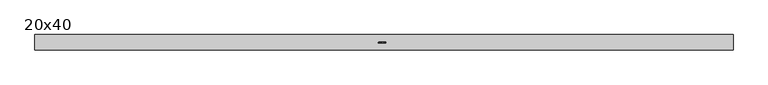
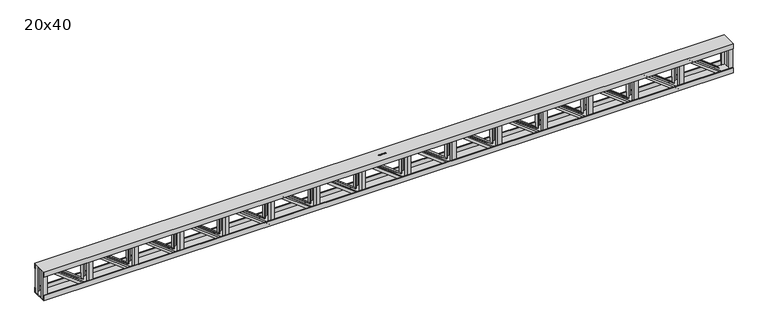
"""IFC4 building model written with IfcOpenShell, lengths in millimetres: beam geometry, Viga Treliçada - Igor Ramos.0001 : 20x40."""

from ifc_helpers import new_model, si_unit, frame, origin, place, context, project, spatial, polyline, outline, extrude, faceted_brep, source, transform, mapped, element, save


def beam_20x40_c263b07b(model_context):
    return source(origin(), model_context, "Body", "SolidModel", [
        extrude(outline(polyline([(3840.3693576, 90.0), (3890.3693576, 90.0), (3890.3693576, 85.0), (3845.3693576, 85.0), (3845.3693576, 40.0), (3840.3693576, 40.0), (3840.3693576, 90.0)])), frame((0.0, 0.0, -190.0), z_axis=(0.0, 0.0, 1.0), x_axis=(1.0, 0.0, 0.0)), (0.0, 0.0, 1.0), 380.0),
        extrude(outline(polyline([(3245.6971488, 90.0), (3295.6971488, 90.0), (3295.6971488, 85.0), (3250.6971488, 85.0), (3250.6971488, 40.0), (3245.6971488, 40.0), (3245.6971488, 90.0)])), frame((0.0, 0.0, -190.0), z_axis=(0.0, 0.0, 1.0), x_axis=(1.0, 0.0, 0.0)), (0.0, 0.0, 1.0), 380.0),
        extrude(outline(polyline([(2651.0249399, 90.0), (2701.0249399, 90.0), (2701.0249399, 85.0), (2656.0249399, 85.0), (2656.0249399, 40.0), (2651.0249399, 40.0), (2651.0249399, 90.0)])), frame((0.0, 0.0, -190.0), z_axis=(0.0, 0.0, 1.0), x_axis=(1.0, 0.0, 0.0)), (0.0, 0.0, 1.0), 380.0),
        extrude(outline(polyline([(2056.352731, 90.0), (2106.352731, 90.0), (2106.352731, 85.0), (2061.352731, 85.0), (2061.352731, 40.0), (2056.352731, 40.0), (2056.352731, 90.0)])), frame((0.0, 0.0, -190.0), z_axis=(0.0, 0.0, 1.0), x_axis=(1.0, 0.0, 0.0)), (0.0, 0.0, 1.0), 380.0),
        extrude(outline(polyline([(1461.6805222, 90.0), (1511.6805222, 90.0), (1511.6805222, 85.0), (1466.6805222, 85.0), (1466.6805222, 40.0), (1461.6805222, 40.0), (1461.6805222, 90.0)])), frame((0.0, 0.0, -190.0), z_axis=(0.0, 0.0, 1.0), x_axis=(1.0, 0.0, 0.0)), (0.0, 0.0, 1.0), 380.0),
        extrude(outline(polyline([(867.0083133, 90.0), (917.0083133, 90.0), (917.0083133, 85.0), (872.0083133, 85.0), (872.0083133, 40.0), (867.0083133, 40.0), (867.0083133, 90.0)])), frame((0.0, 0.0, -190.0), z_axis=(0.0, 0.0, 1.0), x_axis=(1.0, 0.0, 0.0)), (0.0, 0.0, 1.0), 380.0),
        extrude(outline(polyline([(272.3361044, 90.0), (322.3361044, 90.0), (322.3361044, 85.0), (277.3361044, 85.0), (277.3361044, 40.0), (272.3361044, 40.0), (272.3361044, 90.0)])), frame((0.0, 0.0, -190.0), z_axis=(0.0, 0.0, 1.0), x_axis=(1.0, 0.0, 0.0)), (0.0, 0.0, 1.0), 380.0),
        extrude(outline(polyline([(-322.3361044, 90.0), (-272.3361044, 90.0), (-272.3361044, 85.0), (-317.3361044, 85.0), (-317.3361044, 40.0), (-322.3361044, 40.0), (-322.3361044, 90.0)])), frame((0.0, 0.0, -190.0), z_axis=(0.0, 0.0, 1.0), x_axis=(1.0, 0.0, 0.0)), (0.0, 0.0, 1.0), 380.0),
        extrude(outline(polyline([(-917.0083133, 90.0), (-867.0083133, 90.0), (-867.0083133, 85.0), (-912.0083133, 85.0), (-912.0083133, 40.0), (-917.0083133, 40.0), (-917.0083133, 90.0)])), frame((0.0, 0.0, -190.0), z_axis=(0.0, 0.0, 1.0), x_axis=(1.0, 0.0, 0.0)), (0.0, 0.0, 1.0), 380.0),
        extrude(outline(polyline([(-1511.6805222, 90.0), (-1461.6805222, 90.0), (-1461.6805222, 85.0), (-1506.6805222, 85.0), (-1506.6805222, 40.0), (-1511.6805222, 40.0), (-1511.6805222, 90.0)])), frame((0.0, 0.0, -190.0), z_axis=(0.0, 0.0, 1.0), x_axis=(1.0, 0.0, 0.0)), (0.0, 0.0, 1.0), 380.0),
        extrude(outline(polyline([(3840.3693576, -90.0), (3840.3693576, -40.0), (3845.3693576, -40.0), (3845.3693576, -85.0), (3890.3693576, -85.0), (3890.3693576, -90.0), (3840.3693576, -90.0)])), frame((0.0, 0.0, -190.0), z_axis=(0.0, 0.0, 1.0), x_axis=(1.0, 0.0, 0.0)), (0.0, 0.0, 1.0), 380.0),
        extrude(outline(polyline([(3245.6971488, -90.0), (3245.6971488, -40.0), (3250.6971488, -40.0), (3250.6971488, -85.0), (3295.6971488, -85.0), (3295.6971488, -90.0), (3245.6971488, -90.0)])), frame((0.0, 0.0, -190.0), z_axis=(0.0, 0.0, 1.0), x_axis=(1.0, 0.0, 0.0)), (0.0, 0.0, 1.0), 380.0),
        extrude(outline(polyline([(2651.0249399, -90.0), (2651.0249399, -40.0), (2656.0249399, -40.0), (2656.0249399, -85.0), (2701.0249399, -85.0), (2701.0249399, -90.0), (2651.0249399, -90.0)])), frame((0.0, 0.0, -190.0), z_axis=(0.0, 0.0, 1.0), x_axis=(1.0, 0.0, 0.0)), (0.0, 0.0, 1.0), 380.0),
        extrude(outline(polyline([(2056.352731, -90.0), (2056.352731, -40.0), (2061.352731, -40.0), (2061.352731, -85.0), (2106.352731, -85.0), (2106.352731, -90.0), (2056.352731, -90.0)])), frame((0.0, 0.0, -190.0), z_axis=(0.0, 0.0, 1.0), x_axis=(1.0, 0.0, 0.0)), (0.0, 0.0, 1.0), 380.0),
        extrude(outline(polyline([(1461.6805222, -90.0), (1461.6805222, -40.0), (1466.6805222, -40.0), (1466.6805222, -85.0), (1511.6805222, -85.0), (1511.6805222, -90.0), (1461.6805222, -90.0)])), frame((0.0, 0.0, -190.0), z_axis=(0.0, 0.0, 1.0), x_axis=(1.0, 0.0, 0.0)), (0.0, 0.0, 1.0), 380.0),
        extrude(outline(polyline([(867.0083133, -90.0), (867.0083133, -40.0), (872.0083133, -40.0), (872.0083133, -85.0), (917.0083133, -85.0), (917.0083133, -90.0), (867.0083133, -90.0)])), frame((0.0, 0.0, -190.0), z_axis=(0.0, 0.0, 1.0), x_axis=(1.0, 0.0, 0.0)), (0.0, 0.0, 1.0), 380.0),
        extrude(outline(polyline([(272.3361044, -90.0), (272.3361044, -40.0), (277.3361044, -40.0), (277.3361044, -85.0), (322.3361044, -85.0), (322.3361044, -90.0), (272.3361044, -90.0)])), frame((0.0, 0.0, -190.0), z_axis=(0.0, 0.0, 1.0), x_axis=(1.0, 0.0, 0.0)), (0.0, 0.0, 1.0), 380.0),
        extrude(outline(polyline([(-322.3361044, -90.0), (-322.3361044, -40.0), (-317.3361044, -40.0), (-317.3361044, -85.0), (-272.3361044, -85.0), (-272.3361044, -90.0), (-322.3361044, -90.0)])), frame((0.0, 0.0, -190.0), z_axis=(0.0, 0.0, 1.0), x_axis=(1.0, 0.0, 0.0)), (0.0, 0.0, 1.0), 380.0),
        extrude(outline(polyline([(-917.0083133, -90.0), (-917.0083133, -40.0), (-912.0083133, -40.0), (-912.0083133, -85.0), (-867.0083133, -85.0), (-867.0083133, -90.0), (-917.0083133, -90.0)])), frame((0.0, 0.0, -190.0), z_axis=(0.0, 0.0, 1.0), x_axis=(1.0, 0.0, 0.0)), (0.0, 0.0, 1.0), 380.0),
        extrude(outline(polyline([(-1511.6805222, -90.0), (-1511.6805222, -40.0), (-1506.6805222, -40.0), (-1506.6805222, -85.0), (-1461.6805222, -85.0), (-1461.6805222, -90.0), (-1511.6805222, -90.0)])), frame((0.0, 0.0, -190.0), z_axis=(0.0, 0.0, 1.0), x_axis=(1.0, 0.0, 0.0)), (0.0, 0.0, 1.0), 380.0),
        faceted_brep([(4385.0415665, -90.0, -190.0), (4385.0415665, -85.0, -190.0), (4430.0415665, -85.0, -190.0), (4430.0415665, -40.0, -190.0), (4435.0415665, -40.0, -190.0), (4435.0415665, -90.0, -190.0), (3890.3693576, -90.0, 190.0), (3940.3693576, -90.0, 190.0), (3940.3693576, -40.0, 190.0), (3935.3693576, -40.0, 190.0), (3935.3693576, -85.0, 190.0), (3890.3693576, -85.0, 190.0)], [[[0, 1, 2, 3, 4, 5]], [[6, 7, 8, 9, 10, 11]], [[6, 11, 1, 0]], [[11, 10, 2, 1]], [[10, 9, 3, 2]], [[9, 8, 4, 3]], [[8, 7, 5, 4]], [[7, 6, 0, 5]]]),
        faceted_brep([(3790.3693576, -90.0, -190.0), (3790.3693576, -85.0, -190.0), (3835.3693576, -85.0, -190.0), (3835.3693576, -40.0, -190.0), (3840.3693576, -40.0, -190.0), (3840.3693576, -90.0, -190.0), (3295.6971488, -90.0, 190.0), (3345.6971488, -90.0, 190.0), (3345.6971488, -40.0, 190.0), (3340.6971488, -40.0, 190.0), (3340.6971488, -85.0, 190.0), (3295.6971488, -85.0, 190.0)], [[[0, 1, 2, 3, 4, 5]], [[6, 7, 8, 9, 10, 11]], [[6, 11, 1, 0]], [[11, 10, 2, 1]], [[10, 9, 3, 2]], [[9, 8, 4, 3]], [[8, 7, 5, 4]], [[7, 6, 0, 5]]]),
        faceted_brep([(3195.6971488, -90.0, -190.0), (3195.6971488, -85.0, -190.0), (3240.6971488, -85.0, -190.0), (3240.6971488, -40.0, -190.0), (3245.6971488, -40.0, -190.0), (3245.6971488, -90.0, -190.0), (2701.0249399, -90.0, 190.0), (2751.0249399, -90.0, 190.0), (2751.0249399, -40.0, 190.0), (2746.0249399, -40.0, 190.0), (2746.0249399, -85.0, 190.0), (2701.0249399, -85.0, 190.0)], [[[0, 1, 2, 3, 4, 5]], [[6, 7, 8, 9, 10, 11]], [[6, 11, 1, 0]], [[11, 10, 2, 1]], [[10, 9, 3, 2]], [[9, 8, 4, 3]], [[8, 7, 5, 4]], [[7, 6, 0, 5]]]),
        faceted_brep([(2601.0249399, -90.0, -190.0), (2601.0249399, -85.0, -190.0), (2646.0249399, -85.0, -190.0), (2646.0249399, -40.0, -190.0), (2651.0249399, -40.0, -190.0), (2651.0249399, -90.0, -190.0), (2106.352731, -90.0, 190.0), (2156.352731, -90.0, 190.0), (2156.352731, -40.0, 190.0), (2151.352731, -40.0, 190.0), (2151.352731, -85.0, 190.0), (2106.352731, -85.0, 190.0)], [[[0, 1, 2, 3, 4, 5]], [[6, 7, 8, 9, 10, 11]], [[6, 11, 1, 0]], [[11, 10, 2, 1]], [[10, 9, 3, 2]], [[9, 8, 4, 3]], [[8, 7, 5, 4]], [[7, 6, 0, 5]]]),
        faceted_brep([(2006.352731, -90.0, -190.0), (2006.352731, -85.0, -190.0), (2051.352731, -85.0, -190.0), (2051.352731, -40.0, -190.0), (2056.352731, -40.0, -190.0), (2056.352731, -90.0, -190.0), (1511.6805222, -90.0, 190.0), (1561.6805222, -90.0, 190.0), (1561.6805222, -40.0, 190.0), (1556.6805222, -40.0, 190.0), (1556.6805222, -85.0, 190.0), (1511.6805222, -85.0, 190.0)], [[[0, 1, 2, 3, 4, 5]], [[6, 7, 8, 9, 10, 11]], [[6, 11, 1, 0]], [[11, 10, 2, 1]], [[10, 9, 3, 2]], [[9, 8, 4, 3]], [[8, 7, 5, 4]], [[7, 6, 0, 5]]]),
        faceted_brep([(1411.6805222, -90.0, -190.0), (1411.6805222, -85.0, -190.0), (1456.6805222, -85.0, -190.0), (1456.6805222, -40.0, -190.0), (1461.6805222, -40.0, -190.0), (1461.6805222, -90.0, -190.0), (917.0083133, -90.0, 190.0), (967.0083133, -90.0, 190.0), (967.0083133, -40.0, 190.0), (962.0083133, -40.0, 190.0), (962.0083133, -85.0, 190.0), (917.0083133, -85.0, 190.0)], [[[0, 1, 2, 3, 4, 5]], [[6, 7, 8, 9, 10, 11]], [[6, 11, 1, 0]], [[11, 10, 2, 1]], [[10, 9, 3, 2]], [[9, 8, 4, 3]], [[8, 7, 5, 4]], [[7, 6, 0, 5]]]),
        faceted_brep([(817.0083133, -90.0, -190.0), (817.0083133, -85.0, -190.0), (862.0083133, -85.0, -190.0), (862.0083133, -40.0, -190.0), (867.0083133, -40.0, -190.0), (867.0083133, -90.0, -190.0), (322.3361044, -90.0, 190.0), (372.3361044, -90.0, 190.0), (372.3361044, -40.0, 190.0), (367.3361044, -40.0, 190.0), (367.3361044, -85.0, 190.0), (322.3361044, -85.0, 190.0)], [[[0, 1, 2, 3, 4, 5]], [[6, 7, 8, 9, 10, 11]], [[6, 11, 1, 0]], [[11, 10, 2, 1]], [[10, 9, 3, 2]], [[9, 8, 4, 3]], [[8, 7, 5, 4]], [[7, 6, 0, 5]]]),
        faceted_brep([(222.3361044, -90.0, -190.0), (222.3361044, -85.0, -190.0), (267.3361044, -85.0, -190.0), (267.3361044, -40.0, -190.0), (272.3361044, -40.0, -190.0), (272.3361044, -90.0, -190.0), (-272.3361044, -90.0, 190.0), (-222.3361044, -90.0, 190.0), (-222.3361044, -40.0, 190.0), (-227.3361044, -40.0, 190.0), (-227.3361044, -85.0, 190.0), (-272.3361044, -85.0, 190.0)], [[[0, 1, 2, 3, 4, 5]], [[6, 7, 8, 9, 10, 11]], [[6, 11, 1, 0]], [[11, 10, 2, 1]], [[10, 9, 3, 2]], [[9, 8, 4, 3]], [[8, 7, 5, 4]], [[7, 6, 0, 5]]]),
        faceted_brep([(-372.3361044, -90.0, -190.0), (-372.3361044, -85.0, -190.0), (-327.3361044, -85.0, -190.0), (-327.3361044, -40.0, -190.0), (-322.3361044, -40.0, -190.0), (-322.3361044, -90.0, -190.0), (-867.0083133, -90.0, 190.0), (-817.0083133, -90.0, 190.0), (-817.0083133, -40.0, 190.0), (-822.0083133, -40.0, 190.0), (-822.0083133, -85.0, 190.0), (-867.0083133, -85.0, 190.0)], [[[0, 1, 2, 3, 4, 5]], [[6, 7, 8, 9, 10, 11]], [[6, 11, 1, 0]], [[11, 10, 2, 1]], [[10, 9, 3, 2]], [[9, 8, 4, 3]], [[8, 7, 5, 4]], [[7, 6, 0, 5]]]),
        faceted_brep([(-967.0083133, -90.0, -190.0), (-967.0083133, -85.0, -190.0), (-922.0083133, -85.0, -190.0), (-922.0083133, -40.0, -190.0), (-917.0083133, -40.0, -190.0), (-917.0083133, -90.0, -190.0), (-1461.6805222, -90.0, 190.0), (-1411.6805222, -90.0, 190.0), (-1411.6805222, -40.0, 190.0), (-1416.6805222, -40.0, 190.0), (-1416.6805222, -85.0, 190.0), (-1461.6805222, -85.0, 190.0)], [[[0, 1, 2, 3, 4, 5]], [[6, 7, 8, 9, 10, 11]], [[6, 11, 1, 0]], [[11, 10, 2, 1]], [[10, 9, 3, 2]], [[9, 8, 4, 3]], [[8, 7, 5, 4]], [[7, 6, 0, 5]]]),
        faceted_brep([(4385.0415665, 90.0, -190.0), (4435.0415665, 90.0, -190.0), (4435.0415665, 40.0, -190.0), (4430.0415665, 40.0, -190.0), (4430.0415665, 85.0, -190.0), (4385.0415665, 85.0, -190.0), (3890.3693576, 90.0, 190.0), (3890.3693576, 85.0, 190.0), (3935.3693576, 85.0, 190.0), (3935.3693576, 40.0, 190.0), (3940.3693576, 40.0, 190.0), (3940.3693576, 90.0, 190.0)], [[[0, 1, 2, 3, 4, 5]], [[6, 7, 8, 9, 10, 11]], [[6, 0, 5, 7]], [[7, 5, 4, 8]], [[8, 4, 3, 9]], [[9, 3, 2, 10]], [[10, 2, 1, 11]], [[11, 1, 0, 6]]]),
        faceted_brep([(3790.3693576, 90.0, -190.0), (3840.3693576, 90.0, -190.0), (3840.3693576, 40.0, -190.0), (3835.3693576, 40.0, -190.0), (3835.3693576, 85.0, -190.0), (3790.3693576, 85.0, -190.0), (3295.6971488, 90.0, 190.0), (3295.6971488, 85.0, 190.0), (3340.6971488, 85.0, 190.0), (3340.6971488, 40.0, 190.0), (3345.6971488, 40.0, 190.0), (3345.6971488, 90.0, 190.0)], [[[0, 1, 2, 3, 4, 5]], [[6, 7, 8, 9, 10, 11]], [[6, 0, 5, 7]], [[7, 5, 4, 8]], [[8, 4, 3, 9]], [[9, 3, 2, 10]], [[10, 2, 1, 11]], [[11, 1, 0, 6]]]),
        faceted_brep([(3195.6971488, 90.0, -190.0), (3245.6971488, 90.0, -190.0), (3245.6971488, 40.0, -190.0), (3240.6971488, 40.0, -190.0), (3240.6971488, 85.0, -190.0), (3195.6971488, 85.0, -190.0), (2701.0249399, 90.0, 190.0), (2701.0249399, 85.0, 190.0), (2746.0249399, 85.0, 190.0), (2746.0249399, 40.0, 190.0), (2751.0249399, 40.0, 190.0), (2751.0249399, 90.0, 190.0)], [[[0, 1, 2, 3, 4, 5]], [[6, 7, 8, 9, 10, 11]], [[6, 0, 5, 7]], [[7, 5, 4, 8]], [[8, 4, 3, 9]], [[9, 3, 2, 10]], [[10, 2, 1, 11]], [[11, 1, 0, 6]]]),
        faceted_brep([(2601.0249399, 90.0, -190.0), (2651.0249399, 90.0, -190.0), (2651.0249399, 40.0, -190.0), (2646.0249399, 40.0, -190.0), (2646.0249399, 85.0, -190.0), (2601.0249399, 85.0, -190.0), (2106.352731, 90.0, 190.0), (2106.352731, 85.0, 190.0), (2151.352731, 85.0, 190.0), (2151.352731, 40.0, 190.0), (2156.352731, 40.0, 190.0), (2156.352731, 90.0, 190.0)], [[[0, 1, 2, 3, 4, 5]], [[6, 7, 8, 9, 10, 11]], [[6, 0, 5, 7]], [[7, 5, 4, 8]], [[8, 4, 3, 9]], [[9, 3, 2, 10]], [[10, 2, 1, 11]], [[11, 1, 0, 6]]]),
        faceted_brep([(2006.352731, 90.0, -190.0), (2056.352731, 90.0, -190.0), (2056.352731, 40.0, -190.0), (2051.352731, 40.0, -190.0), (2051.352731, 85.0, -190.0), (2006.352731, 85.0, -190.0), (1511.6805222, 90.0, 190.0), (1511.6805222, 85.0, 190.0), (1556.6805222, 85.0, 190.0), (1556.6805222, 40.0, 190.0), (1561.6805222, 40.0, 190.0), (1561.6805222, 90.0, 190.0)], [[[0, 1, 2, 3, 4, 5]], [[6, 7, 8, 9, 10, 11]], [[6, 0, 5, 7]], [[7, 5, 4, 8]], [[8, 4, 3, 9]], [[9, 3, 2, 10]], [[10, 2, 1, 11]], [[11, 1, 0, 6]]]),
        faceted_brep([(1411.6805222, 90.0, -190.0), (1461.6805222, 90.0, -190.0), (1461.6805222, 40.0, -190.0), (1456.6805222, 40.0, -190.0), (1456.6805222, 85.0, -190.0), (1411.6805222, 85.0, -190.0), (917.0083133, 90.0, 190.0), (917.0083133, 85.0, 190.0), (962.0083133, 85.0, 190.0), (962.0083133, 40.0, 190.0), (967.0083133, 40.0, 190.0), (967.0083133, 90.0, 190.0)], [[[0, 1, 2, 3, 4, 5]], [[6, 7, 8, 9, 10, 11]], [[6, 0, 5, 7]], [[7, 5, 4, 8]], [[8, 4, 3, 9]], [[9, 3, 2, 10]], [[10, 2, 1, 11]], [[11, 1, 0, 6]]]),
        faceted_brep([(817.0083133, 90.0, -190.0), (867.0083133, 90.0, -190.0), (867.0083133, 40.0, -190.0), (862.0083133, 40.0, -190.0), (862.0083133, 85.0, -190.0), (817.0083133, 85.0, -190.0), (322.3361044, 90.0, 190.0), (322.3361044, 85.0, 190.0), (367.3361044, 85.0, 190.0), (367.3361044, 40.0, 190.0), (372.3361044, 40.0, 190.0), (372.3361044, 90.0, 190.0)], [[[0, 1, 2, 3, 4, 5]], [[6, 7, 8, 9, 10, 11]], [[6, 0, 5, 7]], [[7, 5, 4, 8]], [[8, 4, 3, 9]], [[9, 3, 2, 10]], [[10, 2, 1, 11]], [[11, 1, 0, 6]]]),
        faceted_brep([(222.3361044, 90.0, -190.0), (272.3361044, 90.0, -190.0), (272.3361044, 40.0, -190.0), (267.3361044, 40.0, -190.0), (267.3361044, 85.0, -190.0), (222.3361044, 85.0, -190.0), (-272.3361044, 90.0, 190.0), (-272.3361044, 85.0, 190.0), (-227.3361044, 85.0, 190.0), (-227.3361044, 40.0, 190.0), (-222.3361044, 40.0, 190.0), (-222.3361044, 90.0, 190.0)], [[[0, 1, 2, 3, 4, 5]], [[6, 7, 8, 9, 10, 11]], [[6, 0, 5, 7]], [[7, 5, 4, 8]], [[8, 4, 3, 9]], [[9, 3, 2, 10]], [[10, 2, 1, 11]], [[11, 1, 0, 6]]]),
        faceted_brep([(-372.3361044, 90.0, -190.0), (-322.3361044, 90.0, -190.0), (-322.3361044, 40.0, -190.0), (-327.3361044, 40.0, -190.0), (-327.3361044, 85.0, -190.0), (-372.3361044, 85.0, -190.0), (-867.0083133, 90.0, 190.0), (-867.0083133, 85.0, 190.0), (-822.0083133, 85.0, 190.0), (-822.0083133, 40.0, 190.0), (-817.0083133, 40.0, 190.0), (-817.0083133, 90.0, 190.0)], [[[0, 1, 2, 3, 4, 5]], [[6, 7, 8, 9, 10, 11]], [[6, 0, 5, 7]], [[7, 5, 4, 8]], [[8, 4, 3, 9]], [[9, 3, 2, 10]], [[10, 2, 1, 11]], [[11, 1, 0, 6]]]),
        faceted_brep([(-967.0083133, 90.0, -190.0), (-917.0083133, 90.0, -190.0), (-917.0083133, 40.0, -190.0), (-922.0083133, 40.0, -190.0), (-922.0083133, 85.0, -190.0), (-967.0083133, 85.0, -190.0), (-1461.6805222, 90.0, 190.0), (-1461.6805222, 85.0, 190.0), (-1416.6805222, 85.0, 190.0), (-1416.6805222, 40.0, 190.0), (-1411.6805222, 40.0, 190.0), (-1411.6805222, 90.0, 190.0)], [[[0, 1, 2, 3, 4, 5]], [[6, 7, 8, 9, 10, 11]], [[6, 0, 5, 7]], [[7, 5, 4, 8]], [[8, 4, 3, 9]], [[9, 3, 2, 10]], [[10, 2, 1, 11]], [[11, 1, 0, 6]]]),
        extrude(outline(polyline([(-2106.352731, 90.0), (-2056.352731, 90.0), (-2056.352731, 85.0), (-2101.352731, 85.0), (-2101.352731, 40.0), (-2106.352731, 40.0), (-2106.352731, 90.0)])), frame((0.0, 0.0, -190.0), z_axis=(0.0, 0.0, 1.0), x_axis=(1.0, 0.0, 0.0)), (0.0, 0.0, 1.0), 380.0),
        extrude(outline(polyline([(-2701.0249399, 90.0), (-2651.0249399, 90.0), (-2651.0249399, 85.0), (-2696.0249399, 85.0), (-2696.0249399, 40.0), (-2701.0249399, 40.0), (-2701.0249399, 90.0)])), frame((0.0, 0.0, -190.0), z_axis=(0.0, 0.0, 1.0), x_axis=(1.0, 0.0, 0.0)), (0.0, 0.0, 1.0), 380.0),
        extrude(outline(polyline([(-2106.352731, -90.0), (-2106.352731, -40.0), (-2101.352731, -40.0), (-2101.352731, -85.0), (-2056.352731, -85.0), (-2056.352731, -90.0), (-2106.352731, -90.0)])), frame((0.0, 0.0, -190.0), z_axis=(0.0, 0.0, 1.0), x_axis=(1.0, 0.0, 0.0)), (0.0, 0.0, 1.0), 380.0),
        extrude(outline(polyline([(-2701.0249399, -90.0), (-2701.0249399, -40.0), (-2696.0249399, -40.0), (-2696.0249399, -85.0), (-2651.0249399, -85.0), (-2651.0249399, -90.0), (-2701.0249399, -90.0)])), frame((0.0, 0.0, -190.0), z_axis=(0.0, 0.0, 1.0), x_axis=(1.0, 0.0, 0.0)), (0.0, 0.0, 1.0), 380.0),
        faceted_brep([(-1561.6805222, 90.0, -190.0), (-1511.6805222, 90.0, -190.0), (-1511.6805222, 40.0, -190.0), (-1516.6805222, 40.0, -190.0), (-1516.6805222, 85.0, -190.0), (-1561.6805222, 85.0, -190.0), (-2056.352731, 90.0, 190.0), (-2056.352731, 85.0, 190.0), (-2011.352731, 85.0, 190.0), (-2011.352731, 40.0, 190.0), (-2006.352731, 40.0, 190.0), (-2006.352731, 90.0, 190.0)], [[[0, 1, 2, 3, 4, 5]], [[6, 7, 8, 9, 10, 11]], [[6, 0, 5, 7]], [[7, 5, 4, 8]], [[8, 4, 3, 9]], [[9, 3, 2, 10]], [[10, 2, 1, 11]], [[11, 1, 0, 6]]]),
        faceted_brep([(-2156.352731, 90.0, -190.0), (-2106.352731, 90.0, -190.0), (-2106.352731, 40.0, -190.0), (-2111.352731, 40.0, -190.0), (-2111.352731, 85.0, -190.0), (-2156.352731, 85.0, -190.0), (-2651.0249399, 90.0, 190.0), (-2651.0249399, 85.0, 190.0), (-2606.0249399, 85.0, 190.0), (-2606.0249399, 40.0, 190.0), (-2601.0249399, 40.0, 190.0), (-2601.0249399, 90.0, 190.0)], [[[0, 1, 2, 3, 4, 5]], [[6, 7, 8, 9, 10, 11]], [[6, 0, 5, 7]], [[7, 5, 4, 8]], [[8, 4, 3, 9]], [[9, 3, 2, 10]], [[10, 2, 1, 11]], [[11, 1, 0, 6]]]),
        faceted_brep([(-2751.0249399, 90.0, -190.0), (-2701.0249399, 90.0, -190.0), (-2701.0249399, 40.0, -190.0), (-2706.0249399, 40.0, -190.0), (-2706.0249399, 85.0, -190.0), (-2751.0249399, 85.0, -190.0), (-3245.6971488, 90.0, 190.0), (-3245.6971488, 85.0, 190.0), (-3200.6971488, 85.0, 190.0), (-3200.6971488, 40.0, 190.0), (-3195.6971488, 40.0, 190.0), (-3195.6971488, 90.0, 190.0)], [[[0, 1, 2, 3, 4, 5]], [[6, 7, 8, 9, 10, 11]], [[6, 0, 5, 7]], [[7, 5, 4, 8]], [[8, 4, 3, 9]], [[9, 3, 2, 10]], [[10, 2, 1, 11]], [[11, 1, 0, 6]]]),
        faceted_brep([(-1561.6805222, -90.0, -190.0), (-1561.6805222, -85.0, -190.0), (-1516.6805222, -85.0, -190.0), (-1516.6805222, -40.0, -190.0), (-1511.6805222, -40.0, -190.0), (-1511.6805222, -90.0, -190.0), (-2056.352731, -90.0, 190.0), (-2006.352731, -90.0, 190.0), (-2006.352731, -40.0, 190.0), (-2011.352731, -40.0, 190.0), (-2011.352731, -85.0, 190.0), (-2056.352731, -85.0, 190.0)], [[[0, 1, 2, 3, 4, 5]], [[6, 7, 8, 9, 10, 11]], [[6, 11, 1, 0]], [[11, 10, 2, 1]], [[10, 9, 3, 2]], [[9, 8, 4, 3]], [[8, 7, 5, 4]], [[7, 6, 0, 5]]]),
        faceted_brep([(-2156.352731, -90.0, -190.0), (-2156.352731, -85.0, -190.0), (-2111.352731, -85.0, -190.0), (-2111.352731, -40.0, -190.0), (-2106.352731, -40.0, -190.0), (-2106.352731, -90.0, -190.0), (-2651.0249399, -90.0, 190.0), (-2601.0249399, -90.0, 190.0), (-2601.0249399, -40.0, 190.0), (-2606.0249399, -40.0, 190.0), (-2606.0249399, -85.0, 190.0), (-2651.0249399, -85.0, 190.0)], [[[0, 1, 2, 3, 4, 5]], [[6, 7, 8, 9, 10, 11]], [[6, 11, 1, 0]], [[11, 10, 2, 1]], [[10, 9, 3, 2]], [[9, 8, 4, 3]], [[8, 7, 5, 4]], [[7, 6, 0, 5]]]),
        faceted_brep([(-2751.0249399, -90.0, -190.0), (-2751.0249399, -85.0, -190.0), (-2706.0249399, -85.0, -190.0), (-2706.0249399, -40.0, -190.0), (-2701.0249399, -40.0, -190.0), (-2701.0249399, -90.0, -190.0), (-3245.6971488, -90.0, 190.0), (-3195.6971488, -90.0, 190.0), (-3195.6971488, -40.0, 190.0), (-3200.6971488, -40.0, 190.0), (-3200.6971488, -85.0, 190.0), (-3245.6971488, -85.0, 190.0)], [[[0, 1, 2, 3, 4, 5]], [[6, 7, 8, 9, 10, 11]], [[6, 11, 1, 0]], [[11, 10, 2, 1]], [[10, 9, 3, 2]], [[9, 8, 4, 3]], [[8, 7, 5, 4]], [[7, 6, 0, 5]]]),
        extrude(outline(polyline([(-3295.6971488, 90.0), (-3245.6971488, 90.0), (-3245.6971488, 85.0), (-3290.6971488, 85.0), (-3290.6971488, 40.0), (-3295.6971488, 40.0), (-3295.6971488, 90.0)])), frame((0.0, 0.0, -190.0), z_axis=(0.0, 0.0, 1.0), x_axis=(1.0, 0.0, 0.0)), (0.0, 0.0, 1.0), 380.0),
        extrude(outline(polyline([(-3295.6971488, -90.0), (-3295.6971488, -40.0), (-3290.6971488, -40.0), (-3290.6971488, -85.0), (-3245.6971488, -85.0), (-3245.6971488, -90.0), (-3295.6971488, -90.0)])), frame((0.0, 0.0, -190.0), z_axis=(0.0, 0.0, 1.0), x_axis=(1.0, 0.0, 0.0)), (0.0, 0.0, 1.0), 380.0),
        extrude(outline(polyline([(4531.8873954, 90.0), (4531.8873954, 40.0), (4526.8873954, 40.0), (4526.8873954, 85.0), (4481.8873954, 85.0), (4481.8873954, 90.0), (4531.8873954, 90.0)])), frame((0.0, 0.0, -190.0), z_axis=(0.0, 0.0, 1.0), x_axis=(1.0, 0.0, 0.0)), (0.0, 0.0, 1.0), 380.0),
        extrude(outline(polyline([(4531.8873954, -90.0), (4481.8873954, -90.0), (4481.8873954, -85.0), (4526.8873954, -85.0), (4526.8873954, -40.0), (4531.8873954, -40.0), (4531.8873954, -90.0)])), frame((0.0, 0.0, -190.0), z_axis=(0.0, 0.0, 1.0), x_axis=(1.0, 0.0, 0.0)), (0.0, 0.0, 1.0), 380.0),
        extrude(outline(polyline([(-3890.3693576, 90.0), (-3840.3693576, 90.0), (-3840.3693576, 85.0), (-3885.3693576, 85.0), (-3885.3693576, 40.0), (-3890.3693576, 40.0), (-3890.3693576, 90.0)])), frame((0.0, 0.0, -190.0), z_axis=(0.0, 0.0, 1.0), x_axis=(1.0, 0.0, 0.0)), (0.0, 0.0, 1.0), 380.0),
        extrude(outline(polyline([(-3890.3693576, -90.0), (-3890.3693576, -40.0), (-3885.3693576, -40.0), (-3885.3693576, -85.0), (-3840.3693576, -85.0), (-3840.3693576, -90.0), (-3890.3693576, -90.0)])), frame((0.0, 0.0, -190.0), z_axis=(0.0, 0.0, 1.0), x_axis=(1.0, 0.0, 0.0)), (0.0, 0.0, 1.0), 380.0),
        faceted_brep([(-3345.6971488, -90.0, -190.0), (-3345.6971488, -85.0, -190.0), (-3300.6971488, -85.0, -190.0), (-3300.6971488, -40.0, -190.0), (-3295.6971488, -40.0, -190.0), (-3295.6971488, -90.0, -190.0), (-3840.3693576, -90.0, 190.0), (-3790.3693576, -90.0, 190.0), (-3790.3693576, -40.0, 190.0), (-3795.3693576, -40.0, 190.0), (-3795.3693576, -85.0, 190.0), (-3840.3693576, -85.0, 190.0)], [[[0, 1, 2, 3, 4, 5]], [[6, 7, 8, 9, 10, 11]], [[6, 11, 1, 0]], [[11, 10, 2, 1]], [[10, 9, 3, 2]], [[9, 8, 4, 3]], [[8, 7, 5, 4]], [[7, 6, 0, 5]]]),
        faceted_brep([(-3345.6971488, 90.0, -190.0), (-3295.6971488, 90.0, -190.0), (-3295.6971488, 40.0, -190.0), (-3300.6971488, 40.0, -190.0), (-3300.6971488, 85.0, -190.0), (-3345.6971488, 85.0, -190.0), (-3840.3693576, 90.0, 190.0), (-3840.3693576, 85.0, 190.0), (-3795.3693576, 85.0, 190.0), (-3795.3693576, 40.0, 190.0), (-3790.3693576, 40.0, 190.0), (-3790.3693576, 90.0, 190.0)], [[[0, 1, 2, 3, 4, 5]], [[6, 7, 8, 9, 10, 11]], [[6, 0, 5, 7]], [[7, 5, 4, 8]], [[8, 4, 3, 9]], [[9, 3, 2, 10]], [[10, 2, 1, 11]], [[11, 1, 0, 6]]]),
        faceted_brep([(-3940.3693576, 90.0, -190.0), (-3890.3693576, 90.0, -190.0), (-3890.3693576, 40.0, -190.0), (-3895.3693576, 40.0, -190.0), (-3895.3693576, 85.0, -190.0), (-3940.3693576, 85.0, -190.0), (-4435.0415665, 90.0, 190.0), (-4435.0415665, 85.0, 190.0), (-4390.0415665, 85.0, 190.0), (-4390.0415665, 40.0, 190.0), (-4385.0415665, 40.0, 190.0), (-4385.0415665, 90.0, 190.0)], [[[0, 1, 2, 3, 4, 5]], [[6, 7, 8, 9, 10, 11]], [[6, 0, 5, 7]], [[7, 5, 4, 8]], [[8, 4, 3, 9]], [[9, 3, 2, 10]], [[10, 2, 1, 11]], [[11, 1, 0, 6]]]),
        extrude(outline(polyline([(-4485.0415665, 90.0), (-4435.0415665, 90.0), (-4435.0415665, 85.0), (-4480.0415665, 85.0), (-4480.0415665, 40.0), (-4485.0415665, 40.0), (-4485.0415665, 90.0)])), frame((0.0, 0.0, -190.0), z_axis=(0.0, 0.0, 1.0), x_axis=(1.0, 0.0, 0.0)), (0.0, 0.0, 1.0), 380.0),
        extrude(outline(polyline([(-4485.0415665, -90.0), (-4485.0415665, -40.0), (-4480.0415665, -40.0), (-4480.0415665, -85.0), (-4435.0415665, -85.0), (-4435.0415665, -90.0), (-4485.0415665, -90.0)])), frame((0.0, 0.0, -190.0), z_axis=(0.0, 0.0, 1.0), x_axis=(1.0, 0.0, 0.0)), (0.0, 0.0, 1.0), 380.0),
        faceted_brep([(-3940.3693576, -90.0, -190.0), (-3940.3693576, -85.0, -190.0), (-3895.3693576, -85.0, -190.0), (-3895.3693576, -40.0, -190.0), (-3890.3693576, -40.0, -190.0), (-3890.3693576, -90.0, -190.0), (-4435.0415665, -90.0, 190.0), (-4385.0415665, -90.0, 190.0), (-4385.0415665, -40.0, 190.0), (-4390.0415665, -40.0, 190.0), (-4390.0415665, -85.0, 190.0), (-4435.0415665, -85.0, 190.0)], [[[0, 1, 2, 3, 4, 5]], [[6, 7, 8, 9, 10, 11]], [[6, 11, 1, 0]], [[11, 10, 2, 1]], [[10, 9, 3, 2]], [[9, 8, 4, 3]], [[8, 7, 5, 4]], [[7, 6, 0, 5]]]),
        extrude(outline(polyline([(-100.0, 200.0), (100.0, 200.0), (100.0, 130.0), (90.0, 130.0), (90.0, 190.0), (-90.0, 190.0), (-90.0, 130.0), (-100.0, 130.0), (-100.0, 200.0)])), frame((-4485.0415665, 0.0, 0.0), z_axis=(1.0, 0.0, 0.0), x_axis=(0.0, 1.0, 0.0)), (0.0, 0.0, 1.0), 9016.928962),
        extrude(outline(polyline([(100.0, -130.0), (100.0, -200.0), (-100.0, -200.0), (-100.0, -130.0), (-90.0, -130.0), (-90.0, -190.0), (90.0, -190.0), (90.0, -130.0), (100.0, -130.0)])), frame((-4485.0415665, 0.0, 0.0), z_axis=(1.0, 0.0, 0.0), x_axis=(0.0, 1.0, 0.0)), (0.0, 0.0, 1.0), 9016.928962),
        extrude(outline(polyline([(-40.6337926, -4.4248778), (-42.2708675, -4.6848478), (-43.3708347, -5.0), (-44.5480571, -4.6394756), (-45.476346, -3.5309246), (-45.8331915, -1.8877183), (-45.2801422, 0.3195737), (-43.9042636, 1.9799477), (-42.3064294, 2.5342233), (-41.1807105, 2.219071), (-40.2561005, 1.258899), (-40.0255611, 2.3772603), (-38.7698572, 2.3772603), (-39.809737, -2.2286223), (-40.0255611, -3.290575), (-38.5859162, -3.3469836), (-37.3437013, -1.9551634), (-36.8863014, -0.1513153), (-37.4749126, 1.8744882), (-39.2321622, 3.3815781), (-41.8134676, 3.9468901), (-44.7589761, 3.2295202), (-46.8264729, 1.1730599), (-47.5597843, -1.6964197), (-46.8338305, -4.461666), (-44.7332243, -6.1735436), (-41.6883877, -6.7265928), (-38.6938283, -6.1772224), (-36.8863014, -4.843037), (-35.6305975, -4.843037), (-36.8188564, -6.3366379), (-38.8238132, -7.539612), (-41.6246215, -7.9822967), (-44.4070356, -7.5911155), (-46.5787657, -6.4163457), (-47.9301189, -4.6100451), (-48.5015622, -1.8141419), (-47.8197543, 1.3717162), (-45.462857, 4.215444), (-41.757059, 5.202594), (-38.7257114, 4.5109758), (-36.6042585, 2.4483841), (-35.9445235, -0.1145271), (-37.3130445, -3.6241213), (-40.6337926, -4.4248778)]), holes=[polyline([(-44.5774876, -1.9073387), (-44.1372555, -3.2611444), (-43.1280326, -3.7442961), (-42.3272761, -3.5309246), (-41.5240671, -2.8981675), (-40.8974414, -1.8337623), (-40.653413, -0.5388177), (-41.110813, 0.8014991), (-42.2254954, 1.2785194), (-43.0421934, 1.0712792), (-43.7840888, 0.4066391), (-44.3604373, -0.7055908), (-44.5774876, -1.9073387)])]), frame((0.0, 0.0, 200.0), z_axis=(0.0, 0.0, 1.0), x_axis=(1.0, 0.0, 0.0)), (0.0, 0.0, 1.0), 1.0),
        extrude(outline(polyline([(-34.2179306, 3.7899271), (-34.2179306, 5.045631), (-32.9622268, 5.045631), (-32.9622268, 3.7899271), (-34.2179306, 3.7899271)])), frame((0.0, 0.0, 200.0), z_axis=(0.0, 0.0, 1.0), x_axis=(1.0, 0.0, 0.0)), (0.0, 0.0, 1.0), 1.0),
        extrude(outline(polyline([(-34.2179306, -5.0), (-34.2179306, 2.3772603), (-32.9622268, 2.3772603), (-32.9622268, -5.0), (-34.2179306, -5.0)])), frame((0.0, 0.0, 200.0), z_axis=(0.0, 0.0, 1.0), x_axis=(1.0, 0.0, 0.0)), (0.0, 0.0, 1.0), 1.0),
        extrude(outline(polyline([(-31.3925969, -5.6278519), (-30.136893, -5.7848149), (-28.5108546, -6.7265928), (-27.2257202, -6.4102143), (-26.6125835, -5.5223924), (-26.5267444, -4.0582221), (-28.4887817, -5.0), (-30.7488034, -3.9037117), (-31.5495599, -1.2745817), (-31.1902618, 0.6715141), (-30.1503821, 2.048619), (-28.5500954, 2.5342233), (-26.5267444, 1.4354824), (-26.5267444, 2.3772603), (-25.2710405, 2.3772603), (-25.2710405, -3.9920033), (-25.6143971, -6.431061), (-26.7021015, -7.5653638), (-28.5353801, -7.9822967), (-30.6237236, -7.3949118), (-31.3925969, -5.6278519)]), holes=[polyline([(-30.293856, -1.1887425), (-29.7579746, -3.1323857), (-28.4127528, -3.7442961), (-27.0699835, -3.1360646), (-26.5267444, -1.2255307), (-27.085925, 0.6469886), (-28.4323731, 1.2785194), (-29.7506169, 0.6567988), (-30.293856, -1.1887425)])]), frame((0.0, 0.0, 200.0), z_axis=(0.0, 0.0, 1.0), x_axis=(1.0, 0.0, 0.0)), (0.0, 0.0, 1.0), 1.0),
        extrude(outline(polyline([(-23.7014107, -1.3113699), (-22.6149325, 1.7175252), (-20.4027355, 2.5342233), (-18.0298966, 1.5397156), (-17.1089653, -1.2083629), (-17.5160881, -3.4426329), (-18.7018944, -4.7069207), (-20.4027355, -5.156963), (-22.7902896, -4.1661341), (-23.7014107, -1.3113699)]), holes=[polyline([(-22.4457068, -1.3089173), (-21.8644532, -3.2550131), (-20.4027355, -3.9012591), (-18.9459228, -3.2513342), (-18.3646692, -1.2696766), (-18.9496016, 0.6322733), (-20.4027355, 1.2785194), (-21.8644532, 0.6347259), (-22.4457068, -1.3089173)])]), frame((0.0, 0.0, 200.0), z_axis=(0.0, 0.0, 1.0), x_axis=(1.0, 0.0, 0.0)), (0.0, 0.0, 1.0), 1.0),
        extrude(outline(polyline([(-15.6962985, -5.0), (-15.6962985, 2.3772603), (-14.5975576, 2.3772603), (-14.5975576, 1.285877), (-13.8176477, 2.2914211), (-13.0328328, 2.5342233), (-11.7722238, 2.1467209), (-12.1916093, 1.021002), (-13.0745261, 1.2785194), (-14.2370332, 0.3440991), (-14.4405946, -1.1225238), (-14.4405946, -5.0), (-15.6962985, -5.0)])), frame((0.0, 0.0, 200.0), z_axis=(0.0, 0.0, 1.0), x_axis=(1.0, 0.0, 0.0)), (0.0, 0.0, 1.0), 1.0),
        extrude(outline(polyline([(-10.9874089, -5.0), (-10.9874089, 2.3772603), (-9.888668, 2.3772603), (-9.888668, 1.285877), (-9.1087582, 2.2914211), (-8.3239433, 2.5342233), (-7.0633343, 2.1467209), (-7.4827198, 1.021002), (-8.3656366, 1.2785194), (-9.5281437, 0.3440991), (-9.731705, -1.1225238), (-9.731705, -5.0), (-10.9874089, -5.0)])), frame((0.0, 0.0, 200.0), z_axis=(0.0, 0.0, 1.0), x_axis=(1.0, 0.0, 0.0)), (0.0, 0.0, 1.0), 1.0),
        extrude(outline(polyline([(-1.5696298, -4.0582221), (-2.7873193, -4.9092558), (-4.1325411, -5.156963), (-5.9560095, -4.5609942), (-6.5924454, -3.0379627), (-6.3520958, -2.0446813), (-5.720565, -1.3236326), (-4.8413271, -0.9116048), (-3.7548489, -0.7227587), (-1.5769875, -0.2911105), (-1.9154389, 0.9155425), (-3.3035803, 1.2785194), (-4.5739995, 1.0369435), (-5.1797785, 0.1797785), (-6.4354824, 0.3367415), (-5.8922433, 1.5630148), (-4.7984075, 2.281611), (-3.1417122, 2.5342233), (-1.6199071, 2.3110415), (-0.7602895, 1.7506346), (-0.3752396, 0.8983747), (-0.313926, -0.2003662), (-0.313926, -1.7626384), (-0.2501598, -3.9441787), (0.0, -5.0), (-1.2557039, -5.0), (-1.5696298, -4.0582221)]), holes=[polyline([(-1.5733087, -1.724624), (-3.5954334, -1.9318642), (-4.6757802, -2.1354255), (-3.8652135, -3.9012591), (-2.5947943, -3.6008221), (-1.7756438, -2.8736421), (-1.5733087, -1.724624)])]), frame((0.0, 0.0, 200.0), z_axis=(0.0, 0.0, 1.0), x_axis=(1.0, 0.0, 0.0)), (0.0, 0.0, 1.0), 1.0),
        extrude(outline(polyline([(1.4126669, -5.0), (1.4126669, 2.3772603), (2.6683707, 2.3772603), (2.6683707, 1.1632497), (3.5316672, 2.1577574), (4.760393, 2.5342233), (6.0185494, 2.1503997), (6.7101676, 1.074958), (8.9272697, 2.5342233), (10.5692497, 1.927218), (11.1443719, 0.0571512), (11.1443719, -5.0), (9.888668, -5.0), (9.888668, -0.4824091), (9.7721721, 0.5660546), (7.3981069, 0.7757473), (6.9063713, -0.8355758), (6.9063713, -5.0), (5.6506674, -5.0), (5.6506674, -0.3426139), (5.3600407, 0.8738492), (4.4072263, 1.2785194), (3.4777111, 1.0087393), (2.8596694, 0.2190192), (2.6683707, -1.2794868), (2.6683707, -5.0), (1.4126669, -5.0)])), frame((0.0, 0.0, 200.0), z_axis=(0.0, 0.0, 1.0), x_axis=(1.0, 0.0, 0.0)), (0.0, 0.0, 1.0), 1.0),
        extrude(outline(polyline([(12.7140018, -1.3113699), (13.8004799, 1.7175252), (16.012677, 2.5342233), (18.3855158, 1.5397156), (19.3064471, -1.2083629), (18.8993244, -3.4426329), (17.7135181, -4.7069207), (16.012677, -5.156963), (13.6251228, -4.1661341), (12.7140018, -1.3113699)]), holes=[polyline([(13.9697056, -1.3089173), (14.5509592, -3.2550131), (16.012677, -3.9012591), (17.4694897, -3.2513342), (18.0507432, -1.2696766), (17.4658109, 0.6322733), (16.012677, 1.2785194), (14.5509592, 0.6347259), (13.9697056, -1.3089173)])]), frame((0.0, 0.0, 200.0), z_axis=(0.0, 0.0, 1.0), x_axis=(1.0, 0.0, 0.0)), (0.0, 0.0, 1.0), 1.0),
        extrude(outline(polyline([(20.248225, -2.8025182), (21.5039289, -2.6455552), (22.0851824, -3.577523), (23.4169153, -3.9012591), (24.6971446, -3.604501), (25.1140775, -2.9079777), (23.4022, -1.9858202), (21.5112865, -1.3714573), (20.6860046, -0.6540874), (20.405188, 0.3588144), (20.6308223, 1.2944609), (21.2464115, 2.0093783), (22.0447154, 2.3809391), (23.1250622, 2.5342233), (24.6529988, 2.2877423), (25.6242072, 1.6206496), (26.0558554, 0.4937045), (24.8001516, 0.3367415), (24.3280363, 1.0295859), (23.2231641, 1.2785194), (22.0214162, 1.0406224), (23.3605067, -0.423548), (25.2035955, -1.0146117), (26.0595343, -1.684157), (26.3697814, -2.7755402), (26.0055782, -3.9772881), (24.954662, -4.8491684), (23.3997474, -5.156963), (21.2096233, -4.5634467), (20.248225, -2.8025182)])), frame((0.0, 0.0, 200.0), z_axis=(0.0, 0.0, 1.0), x_axis=(1.0, 0.0, 0.0)), (0.0, 0.0, 1.0), 1.0),
        extrude(outline(polyline([(29.0381522, -5.0), (27.7824483, -5.0), (27.7824483, 5.045631), (29.0381522, 5.045631), (29.0381522, 1.3202127), (31.0099996, 2.5342233), (32.2681561, 2.2607643), (33.2442696, 1.4918909), (33.8439173, 0.2962745), (34.0609677, -1.2010053), (33.1621093, -4.1244409), (31.002642, -5.156963), (29.0381522, -3.8252302), (29.0381522, -5.0)]), holes=[polyline([(29.0381522, -1.2598664), (29.3815087, -3.0158898), (30.89473, -3.9012591), (32.2387255, -3.2488817), (32.8052638, -1.3040122), (32.2620247, 0.6482149), (30.948686, 1.2785194), (29.6046904, 0.626142), (29.0381522, -1.2598664)])]), frame((0.0, 0.0, 200.0), z_axis=(0.0, 0.0, 1.0), x_axis=(1.0, 0.0, 0.0)), (0.0, 0.0, 1.0), 1.0),
        extrude(outline(polyline([(35.4736345, 3.7899271), (35.4736345, 5.045631), (36.7293384, 5.045631), (36.7293384, 3.7899271), (35.4736345, 3.7899271)])), frame((0.0, 0.0, 200.0), z_axis=(0.0, 0.0, 1.0), x_axis=(1.0, 0.0, 0.0)), (0.0, 0.0, 1.0), 1.0),
        extrude(outline(polyline([(35.4736345, -5.0), (35.4736345, 2.3772603), (36.7293384, 2.3772603), (36.7293384, -5.0), (35.4736345, -5.0)])), frame((0.0, 0.0, 200.0), z_axis=(0.0, 0.0, 1.0), x_axis=(1.0, 0.0, 0.0)), (0.0, 0.0, 1.0), 1.0),
        extrude(outline(polyline([(38.6128942, -5.0), (38.6128942, 2.3772603), (39.8685981, 2.3772603), (39.8685981, 1.1632497), (40.7318945, 2.1577574), (41.9606204, 2.5342233), (43.2187768, 2.1503997), (43.9103949, 1.074958), (46.1274971, 2.5342233), (47.7694771, 1.927218), (48.3445993, 0.0571512), (48.3445993, -5.0), (47.0888954, -5.0), (47.0888954, -0.4824091), (46.9723994, 0.5660546), (44.5983343, 0.7757473), (44.1065987, -0.8355758), (44.1065987, -5.0), (42.8508948, -5.0), (42.8508948, -0.3426139), (42.560268, 0.8738492), (41.6074537, 1.2785194), (40.6779385, 1.0087393), (40.0598967, 0.2190192), (39.8685981, -1.2794868), (39.8685981, -5.0), (38.6128942, -5.0)])), frame((0.0, 0.0, 200.0), z_axis=(0.0, 0.0, 1.0), x_axis=(1.0, 0.0, 0.0)), (0.0, 0.0, 1.0), 1.0),
    ])


if __name__ == "__main__":
    model = new_model("IFC4")
    model_context = context("Model", 3, world=origin())
    ifc_project = project(units=[si_unit("LENGTHUNIT", "METRE", prefix="MILLI")], contexts=[model_context])
    site = spatial("IfcSite", under=ifc_project)
    building = spatial("IfcBuilding", under=site)
    placement = place(None, origin())
    beam_20x40_shape = beam_20x40_c263b07b(model_context)
    element("IfcBeam", 1, ObjectType="Viga Treliçada - Igor Ramos.0001 : 20x40", at=placement, inside=building, context=model_context, shape_type="MappedRepresentation", body=[
        mapped(beam_20x40_shape, transform((0.0, 0.0, 0.0), x_axis=(1.0, 0.0, 0.0), y_axis=(0.0, 1.0, 0.0), z_axis=(0.0, 0.0, 1.0))),
    ])
    save(model, "model.ifc")
